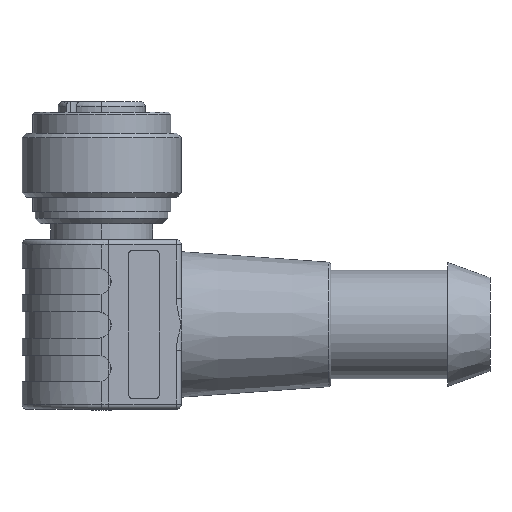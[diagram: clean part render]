
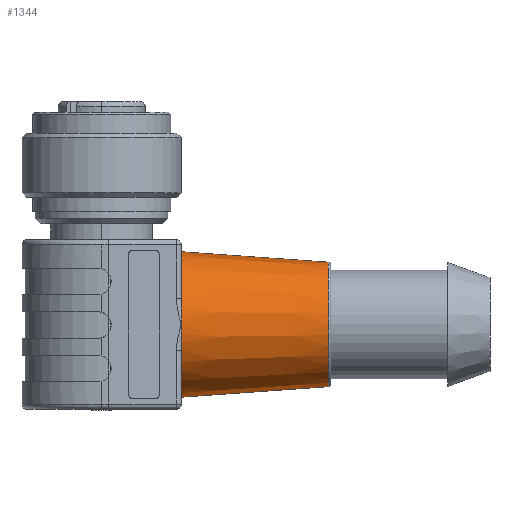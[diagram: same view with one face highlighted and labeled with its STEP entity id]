
A CAD part, left-side view. The second image highlights one B-rep face of the part: STEP entity #1344.
In plain terms, the highlighted conical face has half-angle 4.057 degrees and reference radius 6.358 mm.
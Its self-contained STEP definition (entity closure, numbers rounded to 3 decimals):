
#11 = ORIENTED_EDGE ( 'NONE', *, *, #2567, .T. ) ;
#62 = CARTESIAN_POINT ( 'NONE',  ( 0., 25.1, 6.85 ) ) ;
#192 = CARTESIAN_POINT ( 'NONE',  ( 0., 18.166, 6.358 ) ) ;
#268 = ORIENTED_EDGE ( 'NONE', *, *, #1963, .F. ) ;
#357 = VERTEX_POINT ( 'NONE', #3150 ) ;
#447 = VECTOR ( 'NONE', #2335, 1000. ) ;
#513 = CIRCLE ( 'NONE', #2411, 5.866 ) ;
#553 = EDGE_LOOP ( 'NONE', ( #268, #11, #680, #4192, #881, #3253, #2950 ) ) ;
#587 = AXIS2_PLACEMENT_3D ( 'NONE', #3141, #3484, #771 ) ;
#680 = ORIENTED_EDGE ( 'NONE', *, *, #3902, .T. ) ;
#763 = CARTESIAN_POINT ( 'NONE',  ( 0., 11.232, -5.866 ) ) ;
#771 = DIRECTION ( 'NONE',  ( 0., 0., -1. ) ) ;
#800 = EDGE_CURVE ( 'NONE', #2333, #3564, #1382, .T. ) ;
#833 = CARTESIAN_POINT ( 'NONE',  ( -6.85, 25.1, -0.838 ) ) ;
#849 = CARTESIAN_POINT ( 'NONE',  ( -6.393, 25.1, -2.459 ) ) ;
#853 = CONICAL_SURFACE ( 'NONE', #587, 6.358, 0.071 ) ;
#881 = ORIENTED_EDGE ( 'NONE', *, *, #1619, .T. ) ;
#905 = DIRECTION ( 'NONE',  ( 0., -1., 0. ) ) ;
#947 = VERTEX_POINT ( 'NONE', #2918 ) ;
#1192 = B_SPLINE_CURVE_WITH_KNOTS ( 'NONE', 3,
 ( #1196, #3222, #1884, #4231 ),
 .UNSPECIFIED., .F., .F.,
 ( 4, 4 ),
 ( 0., 1. ),
 .UNSPECIFIED. ) ;
#1196 = CARTESIAN_POINT ( 'NONE',  ( -6.393, 25.1, 2.459 ) ) ;
#1344 = ADVANCED_FACE ( 'NONE', ( #2777 ), #853, .T. ) ;
#1358 = CARTESIAN_POINT ( 'NONE',  ( 0., 25.1, 0. ) ) ;
#1382 = LINE ( 'NONE', #4338, #447 ) ;
#1423 = CIRCLE ( 'NONE', #2807, 6.85 ) ;
#1529 = VERTEX_POINT ( 'NONE', #2780 ) ;
#1619 = EDGE_CURVE ( 'NONE', #3533, #357, #3639, .T. ) ;
#1706 = DIRECTION ( 'NONE',  ( 1., 0., 0. ) ) ;
#1884 = CARTESIAN_POINT ( 'NONE',  ( -6.85, 25.1, 0.838 ) ) ;
#1900 = AXIS2_PLACEMENT_3D ( 'NONE', #4001, #1998, #4344 ) ;
#1963 = EDGE_CURVE ( 'NONE', #947, #2333, #513, .T. ) ;
#1998 = DIRECTION ( 'NONE',  ( 0., -1., 0. ) ) ;
#2333 = VERTEX_POINT ( 'NONE', #763 ) ;
#2335 = DIRECTION ( 'NONE',  ( 0., 0.997, -0.071 ) ) ;
#2411 = AXIS2_PLACEMENT_3D ( 'NONE', #2923, #905, #3261 ) ;
#2567 = EDGE_CURVE ( 'NONE', #947, #2948, #3284, .T. ) ;
#2777 = FACE_OUTER_BOUND ( 'NONE', #553, .T. ) ;
#2780 = CARTESIAN_POINT ( 'NONE',  ( -6.393, 25.1, 2.459 ) ) ;
#2807 = AXIS2_PLACEMENT_3D ( 'NONE', #1358, #3705, #1706 ) ;
#2873 = CARTESIAN_POINT ( 'NONE',  ( -6.694, 25.1, -1.677 ) ) ;
#2918 = CARTESIAN_POINT ( 'NONE',  ( 0., 11.232, 5.866 ) ) ;
#2923 = CARTESIAN_POINT ( 'NONE',  ( 0., 11.232, 0. ) ) ;
#2948 = VERTEX_POINT ( 'NONE', #62 ) ;
#2950 = ORIENTED_EDGE ( 'NONE', *, *, #800, .F. ) ;
#3033 = CARTESIAN_POINT ( 'NONE',  ( 0., 25.1, -6.85 ) ) ;
#3061 = DIRECTION ( 'NONE',  ( 0., 0.997, 0.071 ) ) ;
#3141 = CARTESIAN_POINT ( 'NONE',  ( 0., 18.166, 0. ) ) ;
#3150 = CARTESIAN_POINT ( 'NONE',  ( -6.393, 25.1, -2.459 ) ) ;
#3202 = CARTESIAN_POINT ( 'NONE',  ( -6.85, 25.1, 0. ) ) ;
#3212 = EDGE_CURVE ( 'NONE', #1529, #3533, #1192, .T. ) ;
#3222 = CARTESIAN_POINT ( 'NONE',  ( -6.694, 25.1, 1.677 ) ) ;
#3253 = ORIENTED_EDGE ( 'NONE', *, *, #3868, .T. ) ;
#3261 = DIRECTION ( 'NONE',  ( 0., 0., -1. ) ) ;
#3284 = LINE ( 'NONE', #192, #4076 ) ;
#3484 = DIRECTION ( 'NONE',  ( 0., 1., 0. ) ) ;
#3533 = VERTEX_POINT ( 'NONE', #4058 ) ;
#3564 = VERTEX_POINT ( 'NONE', #3033 ) ;
#3639 = B_SPLINE_CURVE_WITH_KNOTS ( 'NONE', 3,
 ( #3202, #833, #2873, #849 ),
 .UNSPECIFIED., .F., .F.,
 ( 4, 4 ),
 ( 0., 1. ),
 .UNSPECIFIED. ) ;
#3705 = DIRECTION ( 'NONE',  ( 0., -1., 0. ) ) ;
#3868 = EDGE_CURVE ( 'NONE', #357, #3564, #4152, .T. ) ;
#3902 = EDGE_CURVE ( 'NONE', #2948, #1529, #1423, .T. ) ;
#4001 = CARTESIAN_POINT ( 'NONE',  ( 0., 25.1, 0. ) ) ;
#4058 = CARTESIAN_POINT ( 'NONE',  ( -6.85, 25.1, 0. ) ) ;
#4076 = VECTOR ( 'NONE', #3061, 1000. ) ;
#4152 = CIRCLE ( 'NONE', #1900, 6.85 ) ;
#4192 = ORIENTED_EDGE ( 'NONE', *, *, #3212, .T. ) ;
#4231 = CARTESIAN_POINT ( 'NONE',  ( -6.85, 25.1, 0. ) ) ;
#4338 = CARTESIAN_POINT ( 'NONE',  ( 0., 18.166, -6.358 ) ) ;
#4344 = DIRECTION ( 'NONE',  ( 1., 0., 0. ) ) ;
